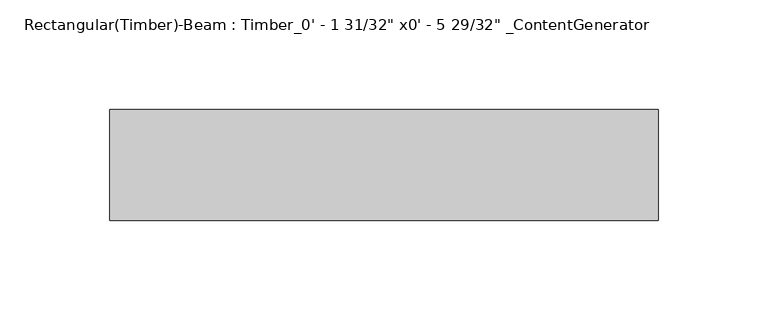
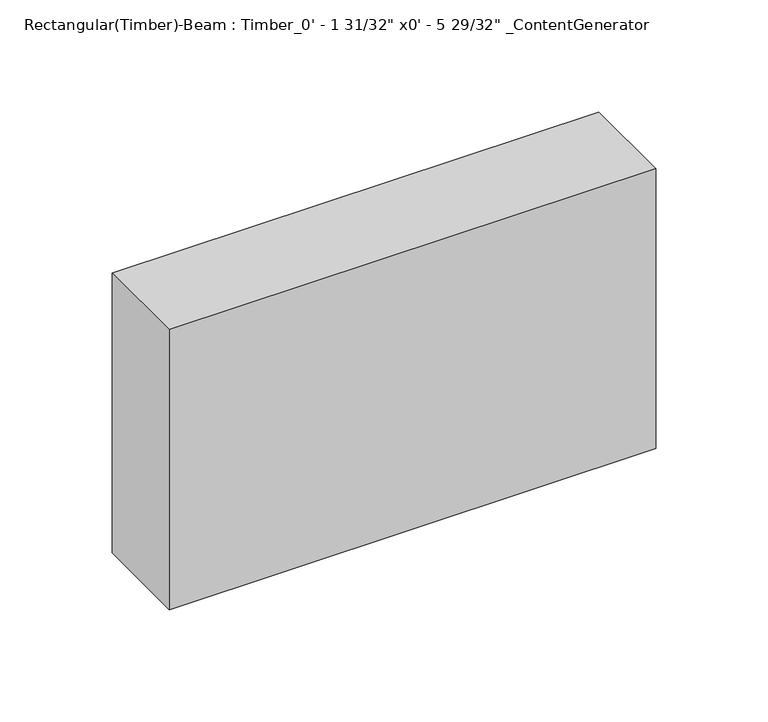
"""IFC4 building model written with IfcOpenShell, lengths in millimetres: beam geometry."""

from ifc_helpers import new_model, si_unit, frame, origin, place, context, project, spatial, polyline, outline, extrude, source, transform, mapped, element, save


def beam_d4d02063(model_context):
    return source(origin(), model_context, "Body", "SweptSolid", [
        extrude(outline(polyline([(112.5476891, 25.4), (112.5476891, -25.4), (-137.9476885, -25.4), (-137.9476885, 25.4), (112.5476891, 25.4)])), frame((0.0, 0.0, -76.2), z_axis=(0.0, 0.0, 1.0), x_axis=(1.0, 0.0, 0.0)), (0.0, 0.0, 1.0), 152.4),
    ])


if __name__ == "__main__":
    model = new_model("IFC4")
    model_context = context("Model", 3, world=origin())
    ifc_project = project(units=[si_unit("LENGTHUNIT", "METRE", prefix="MILLI")], contexts=[model_context])
    site = spatial("IfcSite", under=ifc_project)
    building = spatial("IfcBuilding", under=site)
    placement = place(None, origin())
    beam_shape = beam_d4d02063(model_context)
    element("IfcBeam", 1, ObjectType="Rectangular(Timber)-Beam : Timber_0' - 1 31/32\" x0' - 5 29/32\" _ContentGenerator", at=placement, inside=building, context=model_context, shape_type="MappedRepresentation", body=[
        mapped(beam_shape, transform((0.0, 0.0, 0.0), x_axis=(1.0, 0.0, 0.0), y_axis=(0.0, 1.0, 0.0), z_axis=(0.0, 0.0, 1.0))),
    ])
    save(model, "model.ifc")
